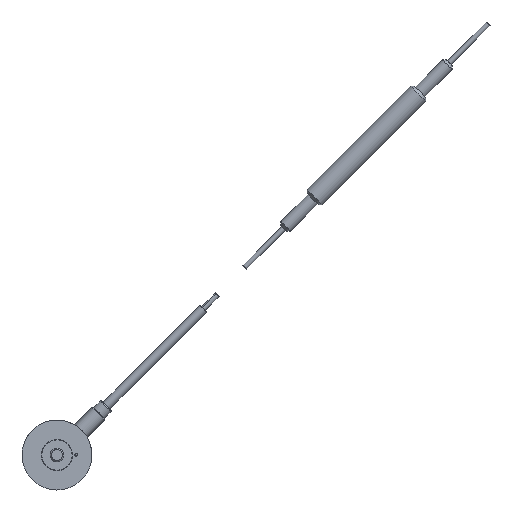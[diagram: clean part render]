
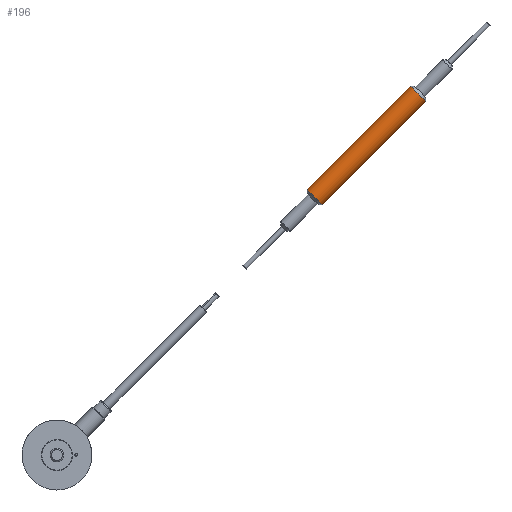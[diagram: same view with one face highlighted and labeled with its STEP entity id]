
A CAD part, front view. The second image highlights one B-rep face of the part: STEP entity #196.
In plain terms, the highlighted cylindrical face has radius 4 mm (diameter 8 mm), a partial arc.
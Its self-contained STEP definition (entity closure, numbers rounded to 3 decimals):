
#196=ADVANCED_FACE('',(#373),#374,.T.);
#373=FACE_OUTER_BOUND('',#574,.T.);
#374=CYLINDRICAL_SURFACE('',#575,4.0);
#574=EDGE_LOOP('',(#1171,#1172,#1173,#1174));
#575=AXIS2_PLACEMENT_3D('',#1175,#1176,#1177);
#1171=ORIENTED_EDGE('',*,*,#1486,.F.);
#1172=ORIENTED_EDGE('',*,*,#1487,.F.);
#1173=ORIENTED_EDGE('',*,*,#1488,.F.);
#1174=ORIENTED_EDGE('',*,*,#1489,.F.);
#1175=CARTESIAN_POINT('',(112.449,4.1,112.449));
#1176=DIRECTION('',(0.707,0.0,0.707));
#1177=DIRECTION('',(-0.707,0.0,0.707));
#1486=EDGE_CURVE('',#1805,#1798,#1806,.T.);
#1487=EDGE_CURVE('',#1807,#1805,#1808,.T.);
#1488=EDGE_CURVE('',#1802,#1807,#1809,.T.);
#1489=EDGE_CURVE('',#1798,#1802,#1810,.T.);
#1798=VERTEX_POINT('',#2333);
#1802=VERTEX_POINT('',#2338);
#1805=VERTEX_POINT('',#2342);
#1806=LINE('',#2343,#2344);
#1807=VERTEX_POINT('',#2345);
#1808=CIRCLE('',#2346,4.0);
#1809=LINE('',#2347,#2348);
#1810=CIRCLE('',#2349,4.0);
#2333=CARTESIAN_POINT('',(128.359,4.1,134.016));
#2338=CARTESIAN_POINT('',(134.016,4.1,128.359));
#2342=CARTESIAN_POINT('',(90.882,4.1,96.539));
#2343=CARTESIAN_POINT('',(109.621,4.1,115.277));
#2344=VECTOR('',#2777,1.0);
#2345=CARTESIAN_POINT('',(96.539,4.1,90.882));
#2346=AXIS2_PLACEMENT_3D('',#2778,#2779,#2780);
#2347=CARTESIAN_POINT('',(115.277,4.1,109.621));
#2348=VECTOR('',#2781,1.0);
#2349=AXIS2_PLACEMENT_3D('',#2782,#2783,#2784);
#2777=DIRECTION('',(0.707,0.0,0.707));
#2778=CARTESIAN_POINT('',(93.711,4.1,93.711));
#2779=DIRECTION('',(-0.707,0.0,-0.707));
#2780=DIRECTION('',(-0.707,0.0,0.707));
#2781=DIRECTION('',(-0.707,0.0,-0.707));
#2782=CARTESIAN_POINT('',(131.187,4.1,131.187));
#2783=DIRECTION('',(0.707,0.0,0.707));
#2784=DIRECTION('',(-0.707,0.0,0.707));
